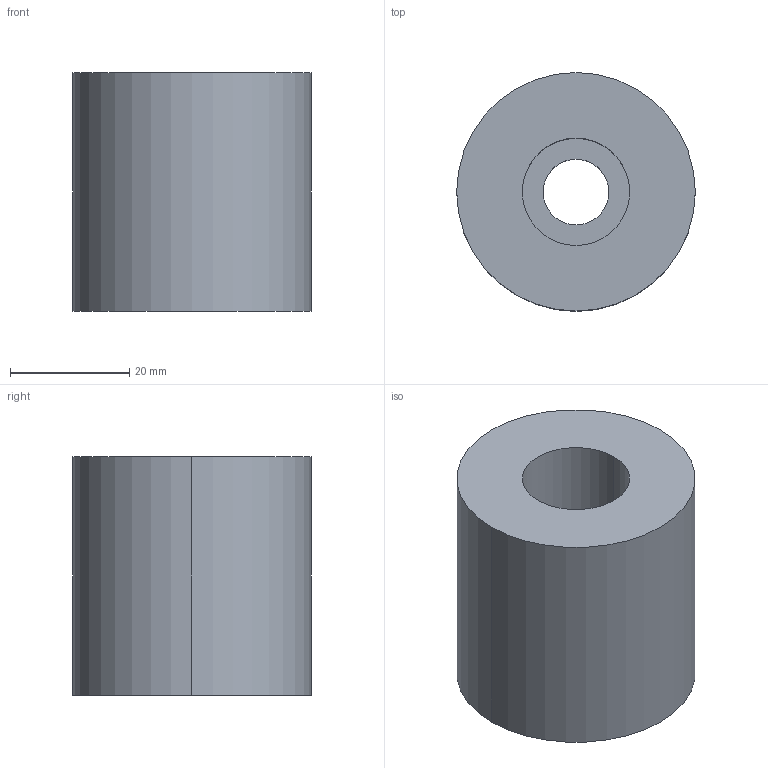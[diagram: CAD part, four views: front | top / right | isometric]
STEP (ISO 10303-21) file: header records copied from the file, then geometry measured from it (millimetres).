
FILE_DESCRIPTION(/* description */ (''),/* implementation_level */ '2;1');
FILE_NAME(/* name */ '3d_azn40-40_03253_r00.stp',/* time_stamp */ '2011-01-10T14:17:33+09:00',/* author */ ('MISUMI'),/* organization */ (''),/* preprocessor_version */ 'ST-DEVELOPER v11',/* originating_system */ 'UGS - NX 5.0',/* authorisation */ '');
FILE_SCHEMA (('CONFIG_CONTROL_DESIGN'));
Length unit declared in the file: millimetre
Products named in the file (1): 3d_azn40-40_03253_r00
Bounding box: 40 x 40 x 40 mm (x, y, z)
Volume: 41681.1 mm3; surface area: 9391.8 mm2
Topology: 1 solids, 1 shells, 9 faces, 18 edges, 12 vertices
Faces by surface type: cylinder 6, plane 3
Entity records: 334 total; most frequent: DIRECTION 50, CARTESIAN_POINT 40, ORIENTED_EDGE 36, AXIS2_PLACEMENT_3D 22, EDGE_CURVE 18, EDGE_LOOP 12, VERTEX_POINT 12, CIRCLE 12
